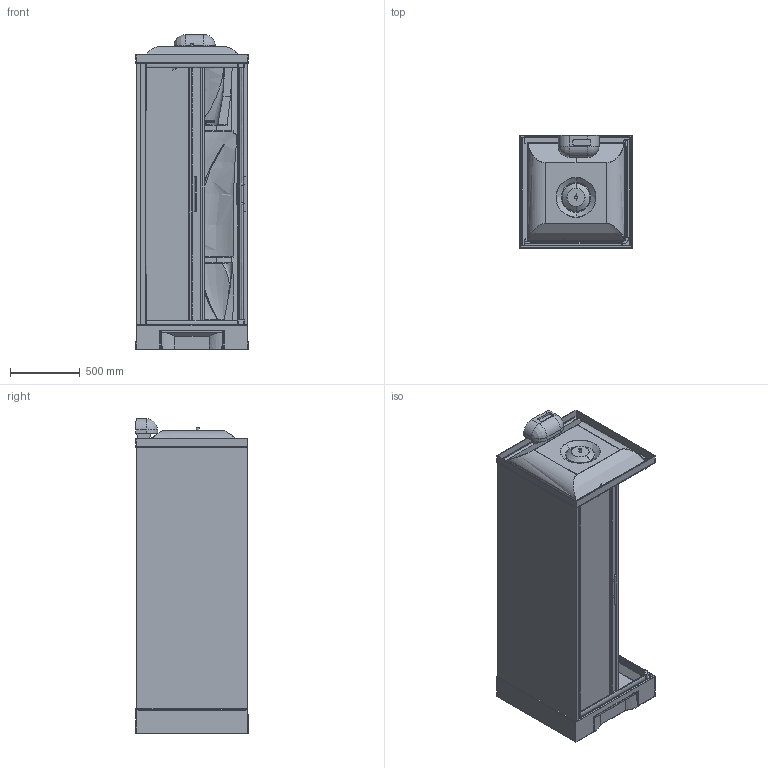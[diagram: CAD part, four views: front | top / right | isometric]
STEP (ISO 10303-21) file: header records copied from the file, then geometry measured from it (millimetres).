
FILE_DESCRIPTION(('STEP AP203'),'2;1');
FILE_NAME('NNH A 80 T 19 N.stp','2015-09-04T14:43:27',(''),(''),'2014.1.117','THINKDESIGN','');
FILE_SCHEMA(('CONFIG_CONTROL_DESIGN'));
Bounding box: 804.03 x 807.53 x 2254.33 mm (x, y, z)
Volume: 184270371.2 mm3; surface area: 18702449.1 mm2
Topology: 48 solids, 48 shells, 900 faces, 2138 edges, 1333 vertices
Faces by surface type: bspline 426, plane 367, cylinder 107
Entity records: 72359 total; most frequent: CARTESIAN_POINT 54372, ORIENTED_EDGE 4252, DIRECTION 2657, EDGE_CURVE 2126, VERTEX_POINT 1333, VECTOR 1063, LINE 1063, EDGE_LOOP 935
